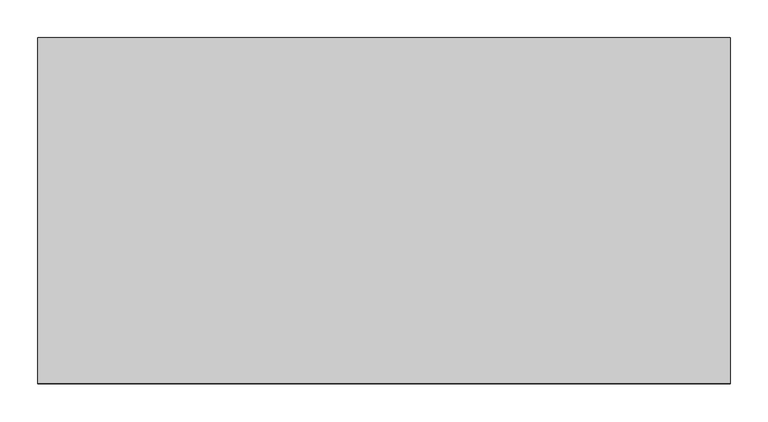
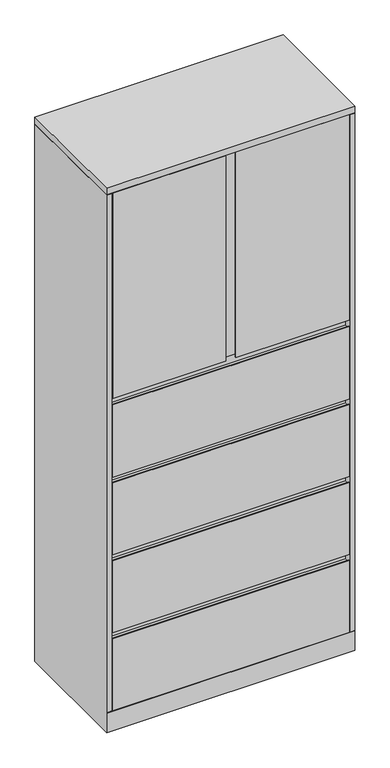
"""IFC4 building model written with IfcOpenShell, lengths in millimetres: furniture geometry, Steelcase - Universal Storage - Cabinet - Combination - Flush Steel : 83 1/2H - 4 Drawers - 18D x 36W."""

from ifc_helpers import new_model, si_unit, frame, origin, place, context, project, spatial, polyline, outline, extrude, faceted_brep, source, transform, mapped, element, save


def furniture_5ab79a42(model_context):
    return source(origin(), model_context, "Body", "SolidModel", [
        extrude(outline(polyline([(21.8068168, -431.673866), (893.572, -431.673866), (893.572, -457.2), (476.25, -457.2), (476.25, -452.883482), (489.4189152, -452.883482), (489.4189152, -438.0238781), (438.15, -438.0238781), (438.15, -457.2), (21.8068168, -457.2), (21.8068168, -431.673866)])), frame((0.0, 0.0, 1293.876), z_axis=(0.0, 0.0, 1.0), x_axis=(1.0, 0.0, 0.0)), (0.0, 0.0, 1.0), 800.1),
        extrude(outline(polyline([(914.4, 0.0), (914.4, -457.2), (0.0, -457.2), (0.0, 0.0), (914.4, 0.0)])), frame((0.0, 0.0, 2095.4999516), z_axis=(0.0, 0.0, 1.0), x_axis=(1.0, 0.0, 0.0)), (0.0, 0.0, 1.0), 25.4000484),
        extrude(outline(polyline([(889.0000242, -25.4000008), (889.0000242, -430.1498674), (25.4000008, -430.1498674), (25.4000008, -25.4000008), (889.0000242, -25.4000008)])), frame((0.0, 0.0, 1875.1550484), z_axis=(0.0, 0.0, 1.0), x_axis=(1.0, 0.0, 0.0)), (0.0, 0.0, 1.0), 22.2249516),
        extrude(outline(polyline([(889.0000242, -25.4000008), (889.0000242, -430.1498674), (25.4000008, -430.1498674), (25.4000008, -25.4000008), (889.0000242, -25.4000008)])), frame((0.0, 0.0, 1571.8790484), z_axis=(0.0, 0.0, 1.0), x_axis=(1.0, 0.0, 0.0)), (0.0, 0.0, 1.0), 22.2249516),
        extrude(outline(polyline([(-457.2, 358.7750484), (-454.0242491, 358.7750484), (-454.0242491, 349.2500484), (-431.673866, 349.2500484), (-431.673866, 381.0), (-430.1498674, 381.0), (-430.1498674, 349.2500484), (-430.1498674, 77.724), (-457.2, 77.724), (-457.2, 358.7750484)])), frame((20.8280006, 0.0, 0.0), z_axis=(1.0, 0.0, 0.0), x_axis=(0.0, 1.0, 0.0)), (0.0, 0.0, 1.0), 872.7439994),
        extrude(outline(polyline([(889.0000242, -25.4000008), (889.0000242, -430.1498674), (25.4000008, -430.1498674), (25.4000008, -25.4000008), (889.0000242, -25.4000008)])), frame((0.0, 0.0, 358.7750484), z_axis=(0.0, 0.0, 1.0), x_axis=(1.0, 0.0, 0.0)), (0.0, 0.0, 1.0), 22.2249516),
        extrude(outline(polyline([(-457.2, 1268.6030484), (-454.0242491, 1268.6030484), (-454.0242491, 1259.0780484), (-431.673866, 1259.0780484), (-431.673866, 1290.828), (-430.1498674, 1290.828), (-430.1498674, 1259.0780484), (-430.1498674, 987.552), (-457.2, 987.552), (-457.2, 1268.6030484)])), frame((20.8280006, 0.0, 0.0), z_axis=(1.0, 0.0, 0.0), x_axis=(0.0, 1.0, 0.0)), (0.0, 0.0, 1.0), 872.7439994),
        extrude(outline(polyline([(889.0000242, -25.4000008), (889.0000242, -430.1498674), (25.4000008, -430.1498674), (25.4000008, -25.4000008), (889.0000242, -25.4000008)])), frame((0.0, 0.0, 1268.6030484), z_axis=(0.0, 0.0, 1.0), x_axis=(1.0, 0.0, 0.0)), (0.0, 0.0, 1.0), 22.2249516),
        extrude(outline(polyline([(-457.2, 965.3270484), (-454.0242491, 965.3270484), (-454.0242491, 955.8020484), (-431.673866, 955.8020484), (-431.673866, 987.552), (-430.1498674, 987.552), (-430.1498674, 955.8020484), (-430.1498674, 684.276), (-457.2, 684.276), (-457.2, 965.3270484)])), frame((20.8280006, 0.0, 0.0), z_axis=(1.0, 0.0, 0.0), x_axis=(0.0, 1.0, 0.0)), (0.0, 0.0, 1.0), 872.7439994),
        extrude(outline(polyline([(889.0000242, -25.4000008), (889.0000242, -430.1498674), (25.4000008, -430.1498674), (25.4000008, -25.4000008), (889.0000242, -25.4000008)])), frame((0.0, 0.0, 965.3270484), z_axis=(0.0, 0.0, 1.0), x_axis=(1.0, 0.0, 0.0)), (0.0, 0.0, 1.0), 22.2249516),
        extrude(outline(polyline([(-457.2, 662.0510484), (-454.0242491, 662.0510484), (-454.0242491, 652.5260484), (-431.673866, 652.5260484), (-431.673866, 684.276), (-430.1498674, 684.276), (-430.1498674, 652.5260484), (-430.1498674, 381.0), (-457.2, 381.0), (-457.2, 662.0510484)])), frame((20.8280006, 0.0, 0.0), z_axis=(1.0, 0.0, 0.0), x_axis=(0.0, 1.0, 0.0)), (0.0, 0.0, 1.0), 872.7439994),
        extrude(outline(polyline([(889.0000242, -25.4000008), (889.0000242, -430.1498674), (25.4000008, -430.1498674), (25.4000008, -25.4000008), (889.0000242, -25.4000008)])), frame((0.0, 0.0, 662.0510484), z_axis=(0.0, 0.0, 1.0), x_axis=(1.0, 0.0, 0.0)), (0.0, 0.0, 1.0), 22.2249516),
        faceted_brep([(914.4, 0.0, 0.0), (914.4, -457.2, 0.0), (0.0, -457.2, 0.0), (0.0, 0.0, 0.0), (0.0, 0.0, 2093.976), (914.4, 0.0, 2093.976), (0.0, -457.2, 76.2), (0.0, -457.2, 77.724), (0.0, -457.2, 2093.976), (914.4, -457.2, 76.2), (914.4, -457.2, 2093.976), (914.4, -457.2, 77.724), (889.0000242, -25.4000008, 2093.976), (889.0000242, -430.1498674, 2093.976), (893.572, -430.1498674, 2093.976), (893.572, -431.6738781, 2093.976), (895.096, -431.6738781, 2093.976), (895.096, -457.2, 2093.976), (19.304, -457.2, 2093.976), (19.304, -431.673866, 2093.976), (20.8280006, -431.673866, 2093.976), (20.8280006, -430.1498674, 2093.976), (25.4000008, -430.1498674, 2093.976), (25.4000008, -25.4000008, 2093.976), (19.304, -457.2, 77.724), (19.304, -437.896, 77.724), (895.096, -457.2, 77.724), (895.096, -437.7698418, 77.724), (889.0000242, -25.4000008, 77.724), (889.0000242, -430.1498674, 77.724), (893.572, -430.1498674, 77.724), (893.572, -431.6738781, 77.724), (895.096, -431.6738781, 77.724), (19.304, -431.673866, 77.724), (20.8280006, -431.673866, 77.724), (20.8280006, -430.1498674, 77.724), (25.4000008, -430.1498674, 77.724), (25.4000008, -25.4000008, 77.724), (25.526134, -431.673866, 77.724), (889.0000242, -431.673866, 77.724)], [[[0, 1, 2, 3]], [[0, 3, 4, 5]], [[4, 3, 2, 6, 7, 8]], [[2, 1, 9, 6]], [[1, 0, 5, 10, 11, 9]], [[12, 13, 14, 15, 16, 17, 10, 5, 4, 8, 18, 19, 20, 21, 22, 23]], [[24, 7, 25]], [[11, 26, 27]], [[13, 12, 28, 29]], [[14, 13, 29, 30]], [[15, 14, 30, 31]], [[16, 15, 31, 32]], [[17, 16, 32, 27, 26]], [[10, 17, 26, 11]], [[18, 8, 7, 24]], [[19, 18, 24, 25, 33]], [[20, 19, 33, 34]], [[21, 20, 34, 35]], [[22, 21, 35, 36]], [[23, 22, 36, 37]], [[12, 23, 37, 28]], [[38, 39, 27, 32, 31, 30, 29, 28, 37, 36, 35, 34, 33, 25]], [[7, 6, 38, 25]], [[39, 38, 6, 9]], [[39, 9, 11, 27]]]),
    ])


if __name__ == "__main__":
    model = new_model("IFC4")
    model_context = context("Model", 3, world=origin())
    ifc_project = project(units=[si_unit("LENGTHUNIT", "METRE", prefix="MILLI")], contexts=[model_context])
    site = spatial("IfcSite", under=ifc_project)
    building = spatial("IfcBuilding", under=site)
    placement = place(None, origin())
    furniture_shape = furniture_5ab79a42(model_context)
    element("IfcFurniture", 1, ObjectType="Steelcase - Universal Storage - Cabinet - Combination - Flush Steel : 83 1/2H - 4 Drawers - 18D x 36W", at=placement, inside=building, context=model_context, shape_type="MappedRepresentation", body=[
        mapped(furniture_shape, transform((0.0, 0.0, 0.0), x_axis=(1.0, 0.0, 0.0), y_axis=(0.0, 1.0, 0.0), z_axis=(0.0, 0.0, 1.0))),
    ])
    save(model, "model.ifc")
